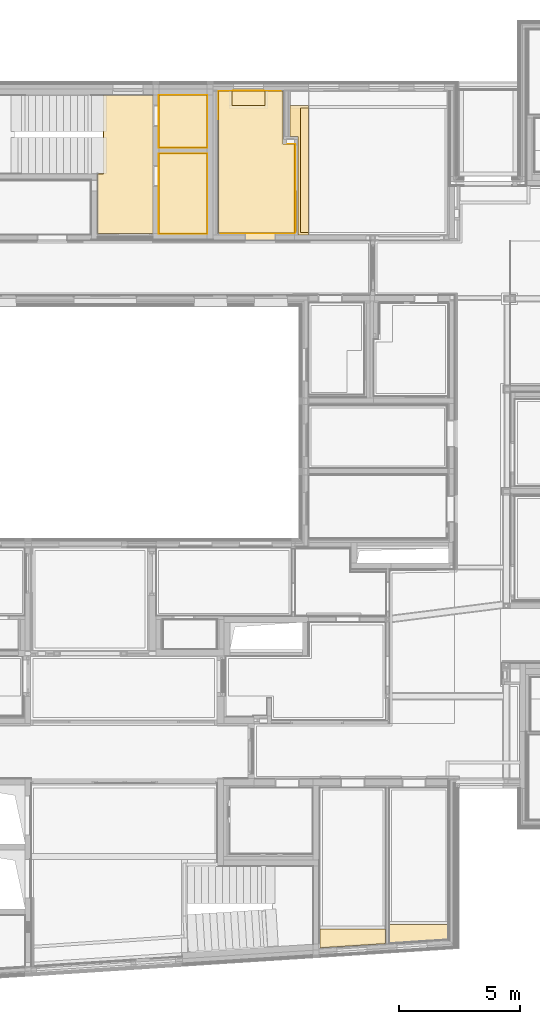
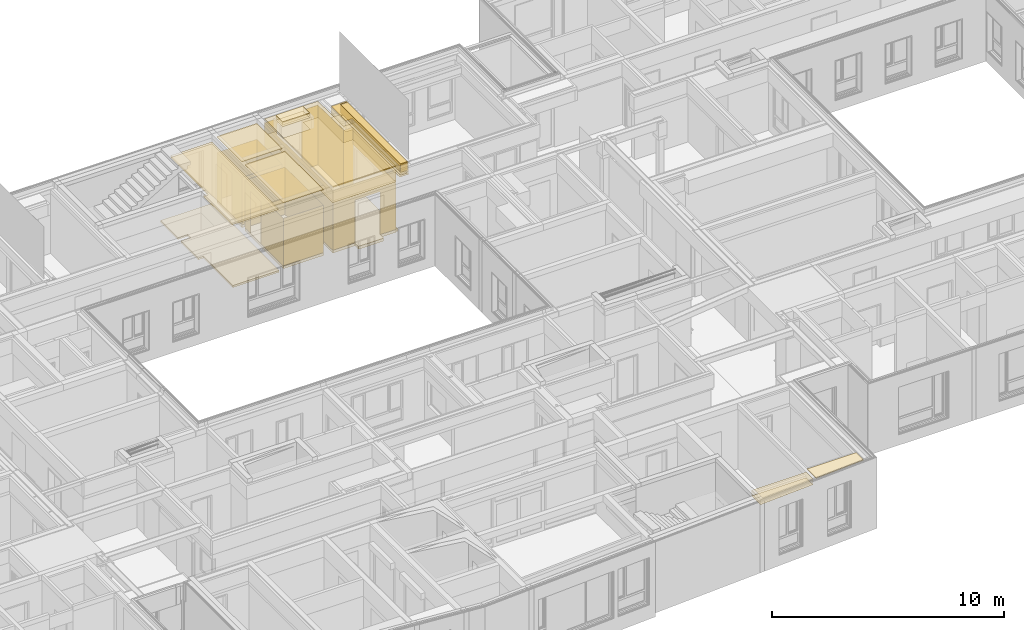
# One storey, part 181 of 222: 34 coverings.
"""IFC4 building model written with IfcOpenShell, lengths in metres."""

from ifc_helpers import new_model, entity, si_unit, converted_unit, derived_unit, frame, frame_2d, origin, place, context, subcontext, project, spatial, polyline, rectangle, outline, extrude, material, layer, layer_set, layer_usage, element, save


model = new_model("IFC4")

# Units and contexts
model_context = context("Model", 3, precision=1e-05, world=origin())
body_context = subcontext(model_context, "Body", "Model", "MODEL_VIEW")
ifc_project = project(units=[si_unit("LENGTHUNIT", "METRE"), si_unit("AREAUNIT", "SQUARE_METRE"), si_unit("VOLUMEUNIT", "CUBIC_METRE"), si_unit("MASSUNIT", "GRAM", prefix="KILO"), converted_unit("PLANEANGLEUNIT", "DEGREE", entity("IfcPlaneAngleMeasure", 0.0174532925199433), si_unit("PLANEANGLEUNIT", "RADIAN"), dimensions=[0, 0, 0, 0, 0, 0, 0]), derived_unit("THERMALTRANSMITTANCEUNIT", [(si_unit("POWERUNIT", "WATT"), 1), (si_unit("THERMODYNAMICTEMPERATUREUNIT", "KELVIN"), -1), (si_unit("LENGTHUNIT", "METRE"), -2)]), derived_unit("VOLUMETRICFLOWRATEUNIT", [(si_unit("LENGTHUNIT", "METRE"), 3), (converted_unit("TIMEUNIT", "hour", entity("IfcTimeMeasure", 3600.0), si_unit("TIMEUNIT", "SECOND"), dimensions=[0, 0, 1, 0, 0, 0, 0]), -1), (si_unit("LENGTHUNIT", "METRE"), -1)])], contexts=[model_context])

# Site, building, storey, space
site_placement = place(None, origin())
site = spatial("IfcSite", under=ifc_project, at=site_placement, Name="Psychiatrie Neubau Wunstorf", CompositionType="ELEMENT")
building_placement = place(site_placement, origin())
building = spatial("IfcBuilding", under=site, at=building_placement, Name="Neubau H2 Stationsgebäude", CompositionType="ELEMENT")
storey_placement = place(building_placement, frame((0.0, 0.0, 3.6)))
storey = spatial("IfcBuildingStorey", under=building, at=storey_placement, Name="H2 Ebene +1", CompositionType="ELEMENT", Elevation=3.6)
space_1_placement = place(storey_placement, frame((48.15, 23.1549914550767, 0.0)))
space_1 = spatial("IfcSpace", under=storey, at=space_1_placement, Name="WUN-H2-E01-T03", CompositionType="ELEMENT")

# Coverings
ifc_material_1 = material(Name="A1")
ifc_layer_1 = layer(ifc_material_1, 0.1)
ifc_layer_set_1 = layer_set([ifc_layer_1])
ifc_layer_usage_1 = layer_usage(ifc_layer_set_1, "AXIS3", "POSITIVE", 0.0)
covering_1_placement = place(space_1_placement, frame((5.14999510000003, 0.0, 3.35)))
element("IfcCovering", 1, at=covering_1_placement, inside=space_1, material=ifc_layer_usage_1, Name="Gipsfaserplatten 2-lagig (BSK)", PredefinedType="CEILING", context=body_context, shape_type="SweptSolid", body=[
    extrude(outline(polyline([(2.30000489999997, 0.0), (2.30000489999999, 5.74000823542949), (0.0, 5.74000823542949), (4.89999998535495e-06, 3.25999969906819), (0.2400049, 3.25999969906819), (0.2400049, 0.0), (2.30000489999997, 0.0)])), frame((0.0, 5.74000823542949, 0.0), z_axis=(0.0, 0.0, -1.0), x_axis=(1.0, 0.0, 0.0)), (0.0, 0.0, 1.0), 0.1),
])
ifc_material_2 = material(Name="D1")
ifc_layer_2 = layer(ifc_material_2, 0.001)
ifc_layer_set_2 = layer_set([ifc_layer_2])
ifc_layer_usage_2 = layer_usage(ifc_layer_set_2, "AXIS3", "POSITIVE", 0.0)
covering_2_placement = place(space_1_placement, frame((5.14999510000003, 0.0, 3.25)))
element("IfcCovering", 2, at=covering_2_placement, inside=space_1, material=ifc_layer_usage_2, Name="Gipsfaserplatten 2-lagig (BSK)", PredefinedType="CEILING", context=body_context, shape_type="SweptSolid", body=[
    extrude(outline(polyline([(2.30000489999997, 0.0), (2.30000489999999, 5.74000823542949), (0.0, 5.74000823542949), (4.89999998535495e-06, 3.25999969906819), (0.2400049, 3.25999969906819), (0.2400049, 0.0), (2.30000489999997, 0.0)])), frame((0.0, 5.74000823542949, 0.0), z_axis=(0.0, 0.0, -1.0), x_axis=(1.0, 0.0, 0.0)), (0.0, 0.0, 1.0), 0.001),
])
ifc_material_3 = material(Name="Fl12")
ifc_layer_3 = layer(ifc_material_3, 0.1)
ifc_layer_set_3 = layer_set([ifc_layer_3])
ifc_layer_usage_3 = layer_usage(ifc_layer_set_3, "AXIS3", "POSITIVE", 0.0)
covering_3_placement = place(space_1_placement, frame((4.895, -0.0704999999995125, 0.0)))
element("IfcCovering", 3, at=covering_3_placement, inside=space_1, material=ifc_layer_usage_3, Name="Fliesen Großformat", PredefinedType="FLOORING", context=body_context, shape_type="SweptSolid", body=[
    extrude(rectangle(XDim=0.0704999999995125, YDim=2.2999951, at=frame_2d((1.14999755, -0.0352499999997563), x_axis=(0.0, -1.0))), frame((0.255000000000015, 0.0704999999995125, 0.0), z_axis=(0.0, 0.0, 1.0), x_axis=(1.0, 0.0, 0.0)), (0.0, 0.0, 1.0), 0.1),
    extrude(outline(polyline([(0.485, 3.9800085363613), (0.0, 3.9800085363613), (0.0, 2.48000853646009), (0.255000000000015, 2.48000853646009), (0.254995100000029, 0.0), (2.55500000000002, 0.0), (2.555, 5.74000823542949), (0.0, 5.74000823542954), (0.0, 4.24000823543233), (0.485, 4.24000823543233), (0.485, 3.9800085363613)])), frame((0.0, 0.0704999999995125, 0.0), z_axis=(0.0, 0.0, 1.0), x_axis=(1.0, 0.0, 0.0)), (0.0, 0.0, 1.0), 0.1),
])

# Space
space_2_placement = place(storey_placement, frame((61.289, 23.0959999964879, 0.0)))
space_2 = spatial("IfcSpace", under=storey, at=space_2_placement, Name="WUN-H2-E01-055", CompositionType="ELEMENT")

# Coverings
ifc_material_4 = material()
ifc_layer_4 = layer(ifc_material_4, 0.036)
ifc_layer_set_4 = layer_set([ifc_layer_4])
ifc_layer_usage_4 = layer_usage(ifc_layer_set_4, "AXIS3", "POSITIVE", 0.0)
covering_4_placement = place(space_2_placement, frame((0.0, 0.0, 3.51)))
element("IfcCovering", 4, at=covering_4_placement, inside=space_2, material=ifc_layer_usage_4, Name="Gipsfaserplatten 2-lagig (BSK)", PredefinedType="CEILING", context=body_context, shape_type="SweptSolid", body=[
    extrude(outline(polyline([(0.324999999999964, 5.3679996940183), (0.324999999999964, 1.27499999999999), (0.0, 1.27499999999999), (0.0, 0.0), (0.773500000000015, 0.0), (0.773500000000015, 0.1), (0.424999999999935, 0.1), (0.424999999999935, 5.2679996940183), (0.773500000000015, 5.2679996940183), (0.773500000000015, 5.3679996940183), (0.324999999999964, 5.3679996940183)])), frame((0.0, 5.3679996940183, 0.0), z_axis=(0.0, 0.0, -1.0), x_axis=(1.0, 0.0, 0.0)), (0.0, 0.0, 1.0), 0.036),
])
ifc_material_5 = material(Name="Installationshöhe")
ifc_layer_5 = layer(ifc_material_5, 0.424)
ifc_layer_set_5 = layer_set([ifc_layer_5])
ifc_layer_usage_5 = layer_usage(ifc_layer_set_5, "AXIS3", "POSITIVE", 0.0)
covering_5_placement = place(space_2_placement, frame((0.0, 0.0, 3.474)))
element("IfcCovering", 5, at=covering_5_placement, inside=space_2, material=ifc_layer_usage_5, Name="Gipsfaserplatten 2-lagig (BSK)", PredefinedType="CEILING", context=body_context, shape_type="SweptSolid", body=[
    extrude(outline(polyline([(0.324999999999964, 5.3679996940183), (0.324999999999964, 1.27499999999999), (0.0, 1.27499999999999), (0.0, 0.0), (0.773500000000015, 0.0), (0.773500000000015, 0.1), (0.424999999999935, 0.1), (0.424999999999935, 5.2679996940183), (0.773500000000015, 5.2679996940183), (0.773500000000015, 5.3679996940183), (0.324999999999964, 5.3679996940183)])), frame((0.0, 5.3679996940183, 0.0), z_axis=(0.0, 0.0, -1.0), x_axis=(1.0, 0.0, 0.0)), (0.0, 0.0, 1.0), 0.424),
])
ifc_material_6 = material(Name="A1")
ifc_layer_6 = layer(ifc_material_6, 0.15)
ifc_layer_set_6 = layer_set([ifc_layer_6])
ifc_layer_usage_6 = layer_usage(ifc_layer_set_6, "AXIS3", "POSITIVE", 0.0)
covering_6_placement = place(space_2_placement, frame((0.0, 0.0, 3.05)))
element("IfcCovering", 6, at=covering_6_placement, inside=space_2, material=ifc_layer_usage_6, Name="Gipsfaserplatten 2-lagig (BSK)", PredefinedType="CEILING", context=body_context, shape_type="SweptSolid", body=[
    extrude(outline(polyline([(0.324999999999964, 5.3679996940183), (0.324999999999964, 1.27499999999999), (0.0, 1.27499999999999), (0.0, 0.0), (0.773500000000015, 0.0), (0.773500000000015, 0.1), (0.424999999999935, 0.1), (0.424999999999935, 5.2679996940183), (0.773500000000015, 5.2679996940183), (0.773500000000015, 5.3679996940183), (0.324999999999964, 5.3679996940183)])), frame((0.0, 5.3679996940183, 0.0), z_axis=(0.0, 0.0, -1.0), x_axis=(1.0, 0.0, 0.0)), (0.0, 0.0, 1.0), 0.15),
])
ifc_material_7 = material(Name="D1")
ifc_layer_7 = layer(ifc_material_7, 0.001)
ifc_layer_set_7 = layer_set([ifc_layer_7])
ifc_layer_usage_7 = layer_usage(ifc_layer_set_7, "AXIS3", "POSITIVE", 0.0)
covering_7_placement = place(space_2_placement, frame((0.0, 0.0, 2.9)))
element("IfcCovering", 7, at=covering_7_placement, inside=space_2, material=ifc_layer_usage_7, Name="Gipsfaserplatten 2-lagig (BSK)", PredefinedType="CEILING", context=body_context, shape_type="SweptSolid", body=[
    extrude(outline(polyline([(0.324999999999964, 5.3679996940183), (0.324999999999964, 1.27499999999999), (0.0, 1.27499999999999), (0.0, 0.0), (0.773500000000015, 0.0), (0.773500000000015, 0.1), (0.424999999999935, 0.1), (0.424999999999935, 5.2679996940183), (0.773500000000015, 5.2679996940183), (0.773500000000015, 5.3679996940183), (0.324999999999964, 5.3679996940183)])), frame((0.0, 5.3679996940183, 0.0), z_axis=(0.0, 0.0, -1.0), x_axis=(1.0, 0.0, 0.0)), (0.0, 0.0, 1.0), 0.001),
])
ifc_material_8 = material()
ifc_layer_8 = layer(ifc_material_8, 0.036)
ifc_layer_set_8 = layer_set([ifc_layer_8])
ifc_layer_usage_8 = layer_usage(ifc_layer_set_8, "AXIS3", "POSITIVE", 0.0)
covering_8_placement = place(space_2_placement, frame((0.424999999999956, 0.100000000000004, 3.51)))
element("IfcCovering", 8, at=covering_8_placement, inside=space_2, material=ifc_layer_usage_8, Name="Gipsfaserplatten 2-lagig (BSK)", PredefinedType="CEILING", context=body_context, shape_type="SweptSolid", body=[
    extrude(rectangle(XDim=5.16799969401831, YDim=0.34850000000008, at=frame_2d((0.17425000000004, -2.58399984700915), x_axis=(0.0, -1.0))), frame((0.0, 0.0, 0.0), z_axis=(0.0, 0.0, -1.0), x_axis=(1.0, 0.0, 0.0)), (0.0, 0.0, 1.0), 0.036),
])
ifc_material_9 = material(Name="Installationshöhe")
ifc_layer_9 = layer(ifc_material_9, 0.424)
ifc_layer_set_9 = layer_set([ifc_layer_9])
ifc_layer_usage_9 = layer_usage(ifc_layer_set_9, "AXIS3", "POSITIVE", 0.0)
covering_9_placement = place(space_2_placement, frame((0.424999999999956, 0.100000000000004, 3.474)))
element("IfcCovering", 9, at=covering_9_placement, inside=space_2, material=ifc_layer_usage_9, Name="Gipsfaserplatten 2-lagig (BSK)", PredefinedType="CEILING", context=body_context, shape_type="SweptSolid", body=[
    extrude(rectangle(XDim=5.16799969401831, YDim=0.34850000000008, at=frame_2d((0.17425000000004, -2.58399984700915), x_axis=(0.0, -1.0))), frame((0.0, 0.0, 0.0), z_axis=(0.0, 0.0, -1.0), x_axis=(1.0, 0.0, 0.0)), (0.0, 0.0, 1.0), 0.424),
])
ifc_material_10 = material(Name="Aa")
ifc_layer_10 = layer(ifc_material_10, 0.15)
ifc_layer_set_10 = layer_set([ifc_layer_10])
ifc_layer_usage_10 = layer_usage(ifc_layer_set_10, "AXIS3", "POSITIVE", 0.0)
covering_10_placement = place(space_2_placement, frame((0.424999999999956, 0.100000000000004, 3.05)))
element("IfcCovering", 10, at=covering_10_placement, inside=space_2, material=ifc_layer_usage_10, Name="Gipsfaserplatten 2-lagig (BSK)", PredefinedType="CEILING", context=body_context, shape_type="SweptSolid", body=[
    extrude(rectangle(XDim=5.16799969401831, YDim=0.34850000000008, at=frame_2d((0.17425000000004, -2.58399984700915), x_axis=(0.0, -1.0))), frame((0.0, 0.0, 0.0), z_axis=(0.0, 0.0, -1.0), x_axis=(1.0, 0.0, 0.0)), (0.0, 0.0, 1.0), 0.15),
])
ifc_material_11 = material(Name="D1")
ifc_layer_11 = layer(ifc_material_11, 0.001)
ifc_layer_set_11 = layer_set([ifc_layer_11])
ifc_layer_usage_11 = layer_usage(ifc_layer_set_11, "AXIS3", "POSITIVE", 0.0)
covering_11_placement = place(space_2_placement, frame((0.424999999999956, 0.100000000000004, 2.9)))
element("IfcCovering", 11, at=covering_11_placement, inside=space_2, material=ifc_layer_usage_11, Name="Gipsfaserplatten 2-lagig (BSK)", PredefinedType="CEILING", context=body_context, shape_type="SweptSolid", body=[
    extrude(rectangle(XDim=5.16799969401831, YDim=0.34850000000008, at=frame_2d((0.17425000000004, -2.58399984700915), x_axis=(0.0, -1.0))), frame((0.0, 0.0, 0.0), z_axis=(0.0, 0.0, -1.0), x_axis=(1.0, 0.0, 0.0)), (0.0, 0.0, 1.0), 0.001),
])

# Space
space_3_placement = place(storey_placement, frame((58.325, 23.1709999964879, 0.0)))
space_3 = spatial("IfcSpace", under=storey, at=space_3_placement, Name="WUN-H2-E01-050", CompositionType="ELEMENT")

# Coverings
ifc_material_12 = material()
ifc_layer_12 = layer(ifc_material_12, 0.036)
ifc_layer_set_12 = layer_set([ifc_layer_12])
ifc_layer_usage_12 = layer_usage(ifc_layer_set_12, "AXIS3", "POSITIVE", 0.0)
covering_12_placement = place(space_3_placement, frame((0.0, 0.0, 3.51)))
element("IfcCovering", 12, at=covering_12_placement, inside=space_3, material=ifc_layer_usage_12, Name="Gipsfaserplatten 2-lagig (BSK)", PredefinedType="CEILING", context=body_context, shape_type="SweptSolid", body=[
    extrude(outline(polyline([(0.0, 0.0), (0.561000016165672, 0.0), (0.561000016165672, 0.600000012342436), (1.91399998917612, 0.600000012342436), (1.91399998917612, 0.0), (2.66399998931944, 0.0), (2.66400000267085, 2.19999999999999), (3.13900000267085, 2.19999999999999), (3.13900000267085, 5.89299969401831), (0.0, 5.89299969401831), (0.0, 0.0)])), frame((0.0, 5.8929996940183, 0.0), z_axis=(0.0, 0.0, -1.0), x_axis=(1.0, 0.0, 0.0)), (0.0, 0.0, 1.0), 0.036),
])
ifc_material_13 = material(Name="Installationshöhe")
ifc_layer_13 = layer(ifc_material_13, 0.724)
ifc_layer_set_13 = layer_set([ifc_layer_13])
ifc_layer_usage_13 = layer_usage(ifc_layer_set_13, "AXIS3", "POSITIVE", 0.0)
covering_13_placement = place(space_3_placement, frame((0.0, 0.0, 3.474)))
element("IfcCovering", 13, at=covering_13_placement, inside=space_3, material=ifc_layer_usage_13, Name="Gipsfaserplatten 2-lagig (BSK)", PredefinedType="CEILING", context=body_context, shape_type="SweptSolid", body=[
    extrude(outline(polyline([(0.0, 0.0), (0.561000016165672, 0.0), (0.561000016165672, 0.600000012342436), (1.91399998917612, 0.600000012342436), (1.91399998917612, 0.0), (2.66399998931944, 0.0), (2.66400000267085, 2.19999999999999), (3.13900000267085, 2.19999999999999), (3.13900000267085, 5.89299969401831), (0.0, 5.89299969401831), (0.0, 0.0)])), frame((0.0, 5.8929996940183, 0.0), z_axis=(0.0, 0.0, -1.0), x_axis=(1.0, 0.0, 0.0)), (0.0, 0.0, 1.0), 0.724),
])
ifc_material_14 = material(Name="A1")
ifc_layer_14 = layer(ifc_material_14, 0.1)
ifc_layer_set_14 = layer_set([ifc_layer_14])
ifc_layer_usage_14 = layer_usage(ifc_layer_set_14, "AXIS3", "POSITIVE", 0.0)
covering_14_placement = place(space_3_placement, frame((0.0, 0.0, 2.75)))
element("IfcCovering", 14, at=covering_14_placement, inside=space_3, material=ifc_layer_usage_14, Name="Gipsfaserplatten 2-lagig (BSK)", PredefinedType="CEILING", context=body_context, shape_type="SweptSolid", body=[
    extrude(outline(polyline([(0.0, 0.0), (0.561000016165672, 0.0), (0.561000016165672, 0.600000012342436), (1.91399998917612, 0.600000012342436), (1.91399998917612, 0.0), (2.66399998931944, 0.0), (2.66400000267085, 2.19999999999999), (3.13900000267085, 2.19999999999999), (3.13900000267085, 5.89299969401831), (0.0, 5.89299969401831), (0.0, 0.0)])), frame((0.0, 5.8929996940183, 0.0), z_axis=(0.0, 0.0, -1.0), x_axis=(1.0, 0.0, 0.0)), (0.0, 0.0, 1.0), 0.1),
])
ifc_material_15 = material(Name="D1")
ifc_layer_15 = layer(ifc_material_15, 0.001)
ifc_layer_set_15 = layer_set([ifc_layer_15])
ifc_layer_usage_15 = layer_usage(ifc_layer_set_15, "AXIS3", "POSITIVE", 0.0)
covering_15_placement = place(space_3_placement, frame((0.0, 0.0, 2.65)))
element("IfcCovering", 15, at=covering_15_placement, inside=space_3, material=ifc_layer_usage_15, Name="Gipsfaserplatten 2-lagig (BSK)", PredefinedType="CEILING", context=body_context, shape_type="SweptSolid", body=[
    extrude(outline(polyline([(0.0, 0.0), (0.561000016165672, 0.0), (0.561000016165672, 0.600000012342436), (1.91399998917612, 0.600000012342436), (1.91399998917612, 0.0), (2.66399998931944, 0.0), (2.66400000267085, 2.19999999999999), (3.13900000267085, 2.19999999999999), (3.13900000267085, 5.89299969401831), (0.0, 5.89299969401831), (0.0, 0.0)])), frame((0.0, 5.8929996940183, 0.0), z_axis=(0.0, 0.0, -1.0), x_axis=(1.0, 0.0, 0.0)), (0.0, 0.0, 1.0), 0.001),
])
ifc_material_16 = material(Name="Ku1")
ifc_layer_16 = layer(ifc_material_16, 0.15)
ifc_layer_set_16 = layer_set([ifc_layer_16])
ifc_layer_usage_16 = layer_usage(ifc_layer_set_16, "AXIS3", "POSITIVE", 0.0)
covering_16_placement = place(space_3_placement, frame((0.0, -0.307000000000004, 0.0)))
element("IfcCovering", 16, at=covering_16_placement, inside=space_3, material=ifc_layer_usage_16, Name="PVC Bahnenware Holzoptik", PredefinedType="FLOORING", context=body_context, shape_type="SweptSolid", body=[
    extrude(rectangle(XDim=0.114999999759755, YDim=3.668, at=frame_2d((-0.0574999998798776, -1.834), x_axis=(-1.0, 0.0))), frame((3.25399999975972, 3.99999969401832, 0.0), z_axis=(0.0, 0.0, 1.0), x_axis=(1.0, 0.0, 0.0)), (0.0, 0.0, 1.0), 0.15),
    extrude(rectangle(XDim=0.307, YDim=1.26, at=frame_2d((0.63, -0.1535), x_axis=(0.0, -1.0))), frame((1.1, 0.307000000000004, 0.0), z_axis=(0.0, 0.0, 1.0), x_axis=(1.0, 0.0, 0.0)), (0.0, 0.0, 1.0), 0.15),
    extrude(outline(polyline([(3.13899999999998, 0.0), (3.13899999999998, 3.69299969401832), (2.66399999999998, 3.69299969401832), (2.66399999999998, 5.89299969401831), (0.0, 5.89299969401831), (0.0, 0.0), (3.13899999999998, 0.0)])), frame((0.0, 0.307000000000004, 0.0), z_axis=(0.0, 0.0, 1.0), x_axis=(1.0, 0.0, 0.0)), (0.0, 0.0, 1.0), 0.15),
])
ifc_material_17 = material()
ifc_layer_17 = layer(ifc_material_17, 0.036)
ifc_layer_set_17 = layer_set([ifc_layer_17])
ifc_layer_usage_17 = layer_usage(ifc_layer_set_17, "AXIS3", "POSITIVE", 0.0)
covering_17_placement = place(space_3_placement, frame((0.561000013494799, 5.29299968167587, 3.51)))
element("IfcCovering", 17, at=covering_17_placement, inside=space_3, material=ifc_layer_usage_17, Name="Gipsfaserplatten 2-lagig (BSK)", PredefinedType="CEILING", context=body_context, shape_type="SweptSolid", body=[
    extrude(rectangle(XDim=1.35299997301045, YDim=0.600000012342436, at=frame_2d((0.676499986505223, 0.300000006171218), x_axis=(1.0, 0.0))), frame((0.0, 0.60000001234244, 0.0), z_axis=(0.0, 0.0, -1.0), x_axis=(1.0, 0.0, 0.0)), (0.0, 0.0, 1.0), 0.036),
])
ifc_material_18 = material(Name="Installationshöhe")
ifc_layer_18 = layer(ifc_material_18, 0.124)
ifc_layer_set_18 = layer_set([ifc_layer_18])
ifc_layer_usage_18 = layer_usage(ifc_layer_set_18, "AXIS3", "POSITIVE", 0.0)
covering_18_placement = place(space_3_placement, frame((0.561000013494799, 5.29299968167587, 3.474)))
element("IfcCovering", 18, at=covering_18_placement, inside=space_3, material=ifc_layer_usage_18, Name="Gipsfaserplatten 2-lagig (BSK)", PredefinedType="CEILING", context=body_context, shape_type="SweptSolid", body=[
    extrude(rectangle(XDim=1.35299997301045, YDim=0.600000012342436, at=frame_2d((0.676499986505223, 0.300000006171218), x_axis=(1.0, 0.0))), frame((0.0, 0.60000001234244, 0.0), z_axis=(0.0, 0.0, -1.0), x_axis=(1.0, 0.0, 0.0)), (0.0, 0.0, 1.0), 0.124),
])
ifc_material_19 = material(Name="A1")
ifc_layer_19 = layer(ifc_material_19, 0.1)
ifc_layer_set_19 = layer_set([ifc_layer_19])
ifc_layer_usage_19 = layer_usage(ifc_layer_set_19, "AXIS3", "POSITIVE", 0.0)
covering_19_placement = place(space_3_placement, frame((0.561000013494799, 5.29299968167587, 3.35)))
element("IfcCovering", 19, at=covering_19_placement, inside=space_3, material=ifc_layer_usage_19, Name="Gipsfaserplatten 2-lagig (BSK)", PredefinedType="CEILING", context=body_context, shape_type="SweptSolid", body=[
    extrude(rectangle(XDim=1.35299997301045, YDim=0.600000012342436, at=frame_2d((0.676499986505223, 0.300000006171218), x_axis=(1.0, 0.0))), frame((0.0, 0.60000001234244, 0.0), z_axis=(0.0, 0.0, -1.0), x_axis=(1.0, 0.0, 0.0)), (0.0, 0.0, 1.0), 0.1),
])
ifc_material_20 = material(Name="D1")
ifc_layer_20 = layer(ifc_material_20, 0.001)
ifc_layer_set_20 = layer_set([ifc_layer_20])
ifc_layer_usage_20 = layer_usage(ifc_layer_set_20, "AXIS3", "POSITIVE", 0.0)
covering_20_placement = place(space_3_placement, frame((0.561000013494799, 5.29299968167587, 3.25)))
element("IfcCovering", 20, at=covering_20_placement, inside=space_3, material=ifc_layer_usage_20, Name="Gipsfaserplatten 2-lagig (BSK)", PredefinedType="CEILING", context=body_context, shape_type="SweptSolid", body=[
    extrude(rectangle(XDim=1.35299997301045, YDim=0.600000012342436, at=frame_2d((0.676499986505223, 0.300000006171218), x_axis=(1.0, 0.0))), frame((0.0, 0.60000001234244, 0.0), z_axis=(0.0, 0.0, -1.0), x_axis=(1.0, 0.0, 0.0)), (0.0, 0.0, 1.0), 0.001),
])
ifc_material_21 = material(Name="49")
ifc_layer_21 = layer(ifc_material_21, 0.001)
ifc_layer_set_21 = layer_set([ifc_layer_21])
ifc_layer_usage_21 = layer_usage(ifc_layer_set_21, "AXIS3", "POSITIVE", 0.0)
covering_21_placement = place(space_3_placement, frame((0.0, 0.0, 0.15)))
element("IfcCovering", 21, at=covering_21_placement, inside=space_3, material=ifc_layer_usage_21, PredefinedType="CLADDING", context=body_context, shape_type="SweptSolid", body=[
    extrude(rectangle(XDim=5.89299969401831, YDim=3.15, at=frame_2d((2.94649984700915, -1.575), x_axis=(1.0, 0.0))), frame((0.0, 5.8929996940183, 0.0), z_axis=(1.0, 0.0, 0.0), x_axis=(0.0, -1.0, 0.0)), (0.0, 0.0, 1.0), 0.001),
    extrude(outline(polyline([(0.0, 3.15), (1.10000000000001, 3.15), (1.10000000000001, 0.89), (2.36000000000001, 0.89), (2.36000000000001, 3.15), (3.13899999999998, 3.15), (3.13899999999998, 0.0), (0.0, 0.0), (0.0, 3.15)])), frame((0.0, 0.0, 3.15), z_axis=(0.0, 1.0, -4.15531559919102e-16), x_axis=(1.0, 0.0, 0.0)), (0.0, 0.0, 1.0), 0.001),
    extrude(outline(polyline([(0.0, 3.15), (0.0249996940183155, 3.15), (0.0249996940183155, 0.89), (3.69299969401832, 0.89), (3.69299969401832, 0.0), (0.0, 0.0), (0.0, 3.15)])), frame((3.13899999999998, 0.0, 3.15), z_axis=(-1.0, 3.17743126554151e-15, -5.15699906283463e-15), x_axis=(3.17743126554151e-15, 1.0, 0.0)), (0.0, 0.0, 1.0), 0.001),
    extrude(rectangle(XDim=0.475, YDim=3.15, at=frame_2d((0.2375, -1.575), x_axis=(1.0, 0.0))), frame((3.13899999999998, 3.69299969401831, 0.0), z_axis=(0.0, -1.0, 0.0), x_axis=(-1.0, 0.0, 0.0)), (0.0, 0.0, 1.0), 0.001),
    extrude(rectangle(XDim=2.19999999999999, YDim=3.15, at=frame_2d((1.1, -1.575), x_axis=(1.0, 0.0))), frame((2.66399999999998, 3.69299969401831, 0.0), z_axis=(-1.0, 0.0, 0.0), x_axis=(0.0, 1.0, 0.0)), (0.0, 0.0, 1.0), 0.001),
    extrude(outline(polyline([(0.0, 3.15), (2.66399999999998, 3.15), (2.66399999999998, 0.0), (0.0, 0.0), (0.0, 3.15)]), holes=[polyline([(2.05149999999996, 2.75), (0.801499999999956, 2.75), (0.801499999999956, 0.25), (2.05149999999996, 0.25), (2.05149999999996, 2.75)])]), frame((2.66399999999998, 5.89299969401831, 3.15), z_axis=(0.0, -1.0, 0.0), x_axis=(-1.0, 0.0, 0.0)), (0.0, 0.0, 1.0), 0.001),
    extrude(rectangle(XDim=0.0350000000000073, YDim=2.26, at=frame_2d((0.0175000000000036, -1.13), x_axis=(1.0, 0.0))), frame((3.13899999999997, 0.0249996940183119, 0.0), z_axis=(0.0, 1.0, 0.0), x_axis=(1.0, 0.0, 0.0)), (0.0, 0.0, 1.0), 0.001),
    extrude(rectangle(XDim=3.668, YDim=0.0350000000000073, at=frame_2d((0.0175000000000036, 1.834), x_axis=(0.0, 1.0))), frame((3.13899999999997, 3.69299969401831, 2.26), z_axis=(0.0, 0.0, -1.0), x_axis=(1.0, 0.0, 0.0)), (0.0, 0.0, 1.0), 0.001),
    extrude(rectangle(XDim=2.26, YDim=0.0350000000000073, at=frame_2d((0.0175000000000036, 1.13), x_axis=(0.0, 1.0))), frame((3.17399999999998, 3.69299969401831, 2.26), z_axis=(0.0, -1.0, 0.0), x_axis=(-1.0, 0.0, 0.0)), (0.0, 0.0, 1.0), 0.001),
    extrude(rectangle(XDim=2.5, YDim=0.0249999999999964, at=frame_2d((-0.0124999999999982, -1.25), x_axis=(0.0, -1.0))), frame((0.612500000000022, 5.89299969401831, 0.4), z_axis=(1.0, 0.0, 0.0), x_axis=(0.0, -1.0, 0.0)), (0.0, 0.0, 1.0), 0.001),
    extrude(rectangle(XDim=0.0249999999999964, YDim=1.25, at=frame_2d((-0.625, -0.0124999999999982), x_axis=(0.0, -1.0))), frame((1.86250000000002, 5.89299969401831, 2.9), z_axis=(0.0, 0.0, -1.0), x_axis=(1.0, 0.0, 0.0)), (0.0, 0.0, 1.0), 0.001),
    extrude(rectangle(XDim=0.0249999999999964, YDim=2.5, at=frame_2d((0.0124999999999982, -1.25), x_axis=(1.0, 0.0))), frame((1.86250000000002, 5.89299969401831, 0.4), z_axis=(-1.0, 0.0, 0.0), x_axis=(0.0, 1.0, 0.0)), (0.0, 0.0, 1.0), 0.001),
])

# Space
space_4_placement = place(storey_placement, frame((55.85, 23.1549999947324, 0.05)))
space_4 = spatial("IfcSpace", under=storey, at=space_4_placement, Name="WUN-H2-E01-054", CompositionType="ELEMENT")

# Coverings
ifc_material_22 = material(Name="Ku3")
ifc_layer_22 = layer(ifc_material_22, 0.15)
ifc_layer_set_22 = layer_set([ifc_layer_22])
ifc_layer_usage_22 = layer_usage(ifc_layer_set_22, "AXIS3", "POSITIVE", 0.0)
covering_22_placement = place(space_4_placement, origin())
element("IfcCovering", 22, at=covering_22_placement, inside=space_4, material=ifc_layer_usage_22, Name="PVC", PredefinedType="FLOORING", context=body_context, shape_type="SweptSolid", body=[
    extrude(rectangle(XDim=1.99999999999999, YDim=3.31999984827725, at=frame_2d((-0.999999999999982, -1.65999992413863), x_axis=(-1.0, 0.0))), frame((2.0, 3.31999984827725, 0.0), z_axis=(0.0, 0.0, 1.0), x_axis=(1.0, 0.0, 0.0)), (0.0, 0.0, 1.0), 0.15),
])
ifc_material_23 = material(Name="C/C")
ifc_layer_23 = layer(ifc_material_23, 0.036)
ifc_layer_set_23 = layer_set([ifc_layer_23])
ifc_layer_usage_23 = layer_usage(ifc_layer_set_23, "AXIS3", "POSITIVE", 0.0)
covering_23_placement = place(space_4_placement, frame((0.0, 0.0, 3.5)))
element("IfcCovering", 23, at=covering_23_placement, inside=space_4, material=ifc_layer_usage_23, Name="Gipsfaserplatten 2-lagig (BSK)", PredefinedType="CEILING", context=body_context, shape_type="SweptSolid", body=[
    extrude(rectangle(XDim=1.99999999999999, YDim=3.31999984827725, at=frame_2d((1.00000000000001, 1.65999992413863), x_axis=(1.0, 0.0))), frame((0.0, 3.31999984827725, 0.0), z_axis=(0.0, 0.0, -1.0), x_axis=(1.0, 0.0, 0.0)), (0.0, 0.0, 1.0), 0.036),
])
ifc_material_24 = material(Name="D4")
ifc_layer_24 = layer(ifc_material_24, 0.001)
ifc_layer_set_24 = layer_set([ifc_layer_24])
ifc_layer_usage_24 = layer_usage(ifc_layer_set_24, "AXIS3", "POSITIVE", 0.0)
covering_24_placement = place(space_4_placement, frame((0.0, 0.0, 3.464)))
element("IfcCovering", 24, at=covering_24_placement, inside=space_4, material=ifc_layer_usage_24, Name="Gipsfaserplatten 2-lagig (BSK)", PredefinedType="CEILING", context=body_context, shape_type="SweptSolid", body=[
    extrude(rectangle(XDim=1.99999999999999, YDim=3.31999984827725, at=frame_2d((1.00000000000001, 1.65999992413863), x_axis=(1.0, 0.0))), frame((0.0, 3.31999984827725, 0.0), z_axis=(0.0, 0.0, -1.0), x_axis=(1.0, 0.0, 0.0)), (0.0, 0.0, 1.0), 0.001),
])
ifc_material_25 = material(Name="50")
ifc_layer_25 = layer(ifc_material_25, 0.001)
ifc_layer_set_25 = layer_set([ifc_layer_25])
ifc_layer_usage_25 = layer_usage(ifc_layer_set_25, "AXIS3", "POSITIVE", 0.0)
covering_25_placement = place(space_4_placement, frame((0.0, 0.0, 0.15)))
element("IfcCovering", 25, at=covering_25_placement, inside=space_4, material=ifc_layer_usage_25, PredefinedType="CLADDING", context=body_context, shape_type="SweptSolid", body=[
    extrude(rectangle(XDim=1.99999999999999, YDim=2.5, at=frame_2d((0.999999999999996, -1.25), x_axis=(1.0, 0.0))), frame((0.0, 0.0, 0.0), z_axis=(0.0, 1.0, 0.0), x_axis=(1.0, 0.0, 0.0)), (0.0, 0.0, 1.0), 0.001),
    extrude(rectangle(XDim=3.31999984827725, YDim=2.5, at=frame_2d((1.65999992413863, -1.25), x_axis=(1.0, 0.0))), frame((2.0, 0.0, 0.0), z_axis=(-1.0, -8.76621439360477e-15, 0.0), x_axis=(-8.76621439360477e-15, 1.0, 0.0)), (0.0, 0.0, 1.0), 0.001),
    extrude(rectangle(XDim=1.99999999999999, YDim=2.5, at=frame_2d((0.999999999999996, -1.25), x_axis=(1.0, 0.0))), frame((1.99999999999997, 3.31999984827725, 0.0), z_axis=(0.0, -1.0, 0.0), x_axis=(-1.0, 0.0, 0.0)), (0.0, 0.0, 1.0), 0.001),
    extrude(outline(polyline([(0.0, 2.5), (0.489999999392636, 2.5), (0.489999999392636, 0.29), (1.37499999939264, 0.29), (1.37499999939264, 2.5), (3.31999984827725, 2.5), (3.31999984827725, 0.0), (0.0, 0.0), (0.0, 2.5)])), frame((0.0, 3.31999984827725, 2.5), z_axis=(1.0, 7.89683683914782e-15, 1.87549815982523e-16), x_axis=(7.89683683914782e-15, -1.0, 0.0)), (0.0, 0.0, 1.0), 0.001),
])

# Space
space_5_placement = place(storey_placement, frame((55.85, 26.7249998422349, 0.05)))
space_5 = spatial("IfcSpace", under=storey, at=space_5_placement, Name="WUN-H2-E01-053", CompositionType="ELEMENT")

# Coverings
ifc_material_26 = material(Name="Ku3")
ifc_layer_26 = layer(ifc_material_26, 0.15)
ifc_layer_set_26 = layer_set([ifc_layer_26])
ifc_layer_usage_26 = layer_usage(ifc_layer_set_26, "AXIS3", "POSITIVE", 0.0)
covering_26_placement = place(space_5_placement, origin())
element("IfcCovering", 26, at=covering_26_placement, inside=space_5, material=ifc_layer_usage_26, Name="PVC", PredefinedType="FLOORING", context=body_context, shape_type="SweptSolid", body=[
    extrude(rectangle(XDim=2.16999984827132, YDim=2.0, at=frame_2d((-1.0, 1.08499992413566), x_axis=(0.0, 1.0))), frame((2.0, 0.0, 0.0), z_axis=(0.0, 0.0, 1.0), x_axis=(1.0, 0.0, 0.0)), (0.0, 0.0, 1.0), 0.15),
])
ifc_material_27 = material(Name="C/C")
ifc_layer_27 = layer(ifc_material_27, 0.036)
ifc_layer_set_27 = layer_set([ifc_layer_27])
ifc_layer_usage_27 = layer_usage(ifc_layer_set_27, "AXIS3", "POSITIVE", 0.0)
covering_27_placement = place(space_5_placement, frame((0.0, 0.0, 3.5)))
element("IfcCovering", 27, at=covering_27_placement, inside=space_5, material=ifc_layer_usage_27, Name="Gipsfaserplatten 2-lagig (BSK)", PredefinedType="CEILING", context=body_context, shape_type="SweptSolid", body=[
    extrude(rectangle(XDim=2.16999984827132, YDim=2.0, at=frame_2d((-1.0, 1.08499992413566), x_axis=(0.0, 1.0))), frame((2.0, 2.16999984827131, 0.0), z_axis=(0.0, 0.0, -1.0), x_axis=(1.0, 0.0, 0.0)), (0.0, 0.0, 1.0), 0.036),
])
ifc_material_28 = material(Name="D4")
ifc_layer_28 = layer(ifc_material_28, 0.001)
ifc_layer_set_28 = layer_set([ifc_layer_28])
ifc_layer_usage_28 = layer_usage(ifc_layer_set_28, "AXIS3", "POSITIVE", 0.0)
covering_28_placement = place(space_5_placement, frame((0.0, 0.0, 3.464)))
element("IfcCovering", 28, at=covering_28_placement, inside=space_5, material=ifc_layer_usage_28, Name="Gipsfaserplatten 2-lagig (BSK)", PredefinedType="CEILING", context=body_context, shape_type="SweptSolid", body=[
    extrude(rectangle(XDim=2.16999984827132, YDim=2.0, at=frame_2d((-1.0, 1.08499992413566), x_axis=(0.0, 1.0))), frame((2.0, 2.16999984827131, 0.0), z_axis=(0.0, 0.0, -1.0), x_axis=(1.0, 0.0, 0.0)), (0.0, 0.0, 1.0), 0.001),
])
ifc_material_29 = material(Name="50")
ifc_layer_29 = layer(ifc_material_29, 0.001)
ifc_layer_set_29 = layer_set([ifc_layer_29])
ifc_layer_usage_29 = layer_usage(ifc_layer_set_29, "AXIS3", "POSITIVE", 0.0)
covering_29_placement = place(space_5_placement, frame((0.0, 0.0, 0.15)))
element("IfcCovering", 29, at=covering_29_placement, inside=space_5, material=ifc_layer_usage_29, PredefinedType="CLADDING", context=body_context, shape_type="SweptSolid", body=[
    extrude(outline(polyline([(0.0, 2.5), (0.40999999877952, 2.5), (0.40999999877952, 0.29), (1.29499999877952, 0.29), (1.29499999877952, 2.5), (2.16999984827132, 2.5), (2.16999984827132, 0.0), (0.0, 0.0), (0.0, 2.5)])), frame((0.0, 2.16999984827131, 2.5), z_axis=(1.0, 0.0, 2.03169715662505e-15), x_axis=(0.0, -1.0, 0.0)), (0.0, 0.0, 1.0), 0.001),
    extrude(rectangle(XDim=2.0, YDim=2.5, at=frame_2d((1.0, -1.25), x_axis=(1.0, 0.0))), frame((0.0, 0.0, 0.0), z_axis=(0.0, 1.0, 0.0), x_axis=(1.0, 0.0, 0.0)), (0.0, 0.0, 1.0), 0.001),
    extrude(rectangle(XDim=2.16999984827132, YDim=2.5, at=frame_2d((1.08499992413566, -1.25), x_axis=(1.0, 0.0))), frame((2.0, 0.0, 0.0), z_axis=(-1.0, 0.0, 0.0), x_axis=(0.0, 1.0, 0.0)), (0.0, 0.0, 1.0), 0.001),
    extrude(rectangle(XDim=2.0, YDim=2.5, at=frame_2d((1.0, -1.25), x_axis=(1.0, 0.0))), frame((2.0, 2.16999984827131, 0.0), z_axis=(0.0, -1.0, 0.0), x_axis=(-1.0, 0.0, 0.0)), (0.0, 0.0, 1.0), 0.001),
])

# Space
space_6_placement = place(storey_placement, frame((62.529793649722, -6.48193409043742, 0.0)))
space_6 = spatial("IfcSpace", under=storey, at=space_6_placement, Name="WUN-H2-E01-073", CompositionType="ELEMENT")

# Coverings
ifc_material_30 = material()
ifc_layer_30 = layer(ifc_material_30, 0.036)
ifc_layer_set_30 = layer_set([ifc_layer_30])
ifc_layer_usage_30 = layer_usage(ifc_layer_set_30, "AXIS3", "POSITIVE", 0.0)
covering_30_placement = place(space_6_placement, frame((0.0, 0.0, 3.55)))
element("IfcCovering", 30, at=covering_30_placement, inside=space_6, material=ifc_layer_usage_30, Name="Gipsfaserplatten 2-lagig (BSK)", PredefinedType="CEILING", context=body_context, shape_type="SweptSolid", body=[
    extrude(outline(polyline([(0.0, 0.774687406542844), (0.0, 0.0), (2.72020635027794, 0.0), (2.72020635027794, 0.600000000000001), (0.0, 0.774687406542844)])), frame((0.0, 0.774687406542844, 0.0), z_axis=(0.0, 0.0, -1.0), x_axis=(1.0, 0.0, 0.0)), (0.0, 0.0, 1.0), 0.036),
])
ifc_material_31 = material(Name="Installationshöhe")
ifc_layer_31 = layer(ifc_material_31, 0.164)
ifc_layer_set_31 = layer_set([ifc_layer_31])
ifc_layer_usage_31 = layer_usage(ifc_layer_set_31, "AXIS3", "POSITIVE", 0.0)
covering_31_placement = place(space_6_placement, frame((0.0, 0.0, 3.514)))
element("IfcCovering", 31, at=covering_31_placement, inside=space_6, material=ifc_layer_usage_31, Name="Gipsfaserplatten 2-lagig (BSK)", PredefinedType="CEILING", context=body_context, shape_type="SweptSolid", body=[
    extrude(outline(polyline([(0.0, 0.774687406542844), (0.0, 0.0), (2.72020635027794, 0.0), (2.72020635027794, 0.600000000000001), (0.0, 0.774687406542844)])), frame((0.0, 0.774687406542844, 0.0), z_axis=(0.0, 0.0, -1.0), x_axis=(1.0, 0.0, 0.0)), (0.0, 0.0, 1.0), 0.164),
])
ifc_material_32 = material(Name="A1")
ifc_layer_32 = layer(ifc_material_32, 0.1)
ifc_layer_set_32 = layer_set([ifc_layer_32])
ifc_layer_usage_32 = layer_usage(ifc_layer_set_32, "AXIS3", "POSITIVE", 0.0)
covering_32_placement = place(space_6_placement, frame((0.0, 0.0, 3.35)))
element("IfcCovering", 32, at=covering_32_placement, inside=space_6, material=ifc_layer_usage_32, Name="Gipsfaserplatten 2-lagig (BSK)", PredefinedType="CEILING", context=body_context, shape_type="SweptSolid", body=[
    extrude(outline(polyline([(0.0, 0.774687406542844), (0.0, 0.0), (2.72020635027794, 0.0), (2.72020635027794, 0.600000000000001), (0.0, 0.774687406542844)])), frame((0.0, 0.774687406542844, 0.0), z_axis=(0.0, 0.0, -1.0), x_axis=(1.0, 0.0, 0.0)), (0.0, 0.0, 1.0), 0.1),
])
ifc_material_33 = material(Name="D1")
ifc_layer_33 = layer(ifc_material_33, 0.001)
ifc_layer_set_33 = layer_set([ifc_layer_33])
ifc_layer_usage_33 = layer_usage(ifc_layer_set_33, "AXIS3", "POSITIVE", 0.0)
covering_33_placement = place(space_6_placement, frame((0.0, 0.0, 3.25)))
element("IfcCovering", 33, at=covering_33_placement, inside=space_6, material=ifc_layer_usage_33, Name="Gipsfaserplatten 2-lagig (BSK)", PredefinedType="CEILING", context=body_context, shape_type="SweptSolid", body=[
    extrude(outline(polyline([(0.0, 0.774687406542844), (0.0, 0.0), (2.72020635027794, 0.0), (2.72020635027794, 0.600000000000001), (0.0, 0.774687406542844)])), frame((0.0, 0.774687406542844, 0.0), z_axis=(0.0, 0.0, -1.0), x_axis=(1.0, 0.0, 0.0)), (0.0, 0.0, 1.0), 0.001),
])

# Space
space_7_placement = place(storey_placement, frame((65.4, -6.29761391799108, 0.0)))
space_7 = spatial("IfcSpace", under=storey, at=space_7_placement, Name="WUN-H2-E01-073", CompositionType="ELEMENT")

# Covering
ifc_material_34 = material()
ifc_layer_34 = layer(ifc_material_34, 0.036)
ifc_layer_set_34 = layer_set([ifc_layer_34])
ifc_layer_usage_34 = layer_usage(ifc_layer_set_34, "AXIS3", "POSITIVE", 0.0)
covering_34_placement = place(space_7_placement, frame((0.0, 0.0, 3.55)))
element("IfcCovering", 34, at=covering_34_placement, inside=space_7, material=ifc_layer_usage_34, Name="Gipsfaserplatten 2-lagig (BSK)", PredefinedType="CEILING", context=body_context, shape_type="SweptSolid", body=[
    extrude(outline(polyline([(2.45250000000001, 0.0), (2.45250000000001, 0.626115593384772), (0.0, 0.783613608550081), (0.0, 0.0), (2.45250000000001, 0.0)])), frame((0.0, 0.783613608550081, 0.0), z_axis=(0.0, 0.0, -1.0), x_axis=(1.0, 0.0, 0.0)), (0.0, 0.0, 1.0), 0.036),
])

save(model, "model.ifc")
